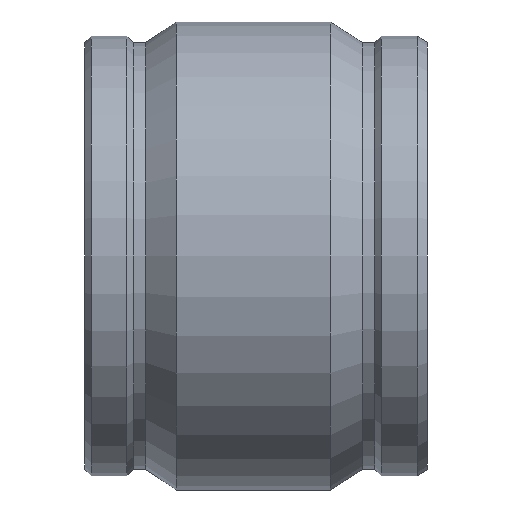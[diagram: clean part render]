
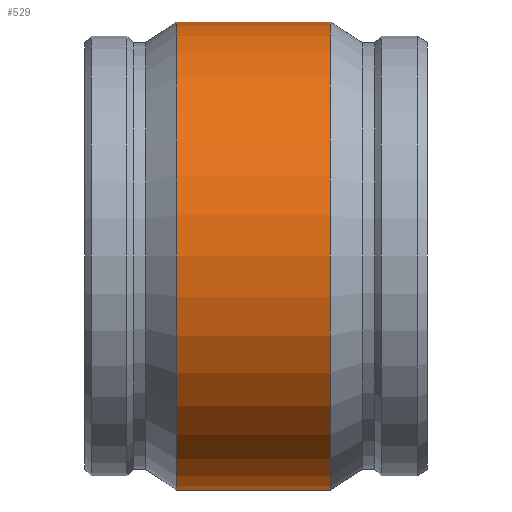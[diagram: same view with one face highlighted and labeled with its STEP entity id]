
A CAD part, front view. The second image highlights one B-rep face of the part: STEP entity #529.
In plain terms, the highlighted cylindrical face has radius 194.31 mm (diameter 388.62 mm), a full revolution.
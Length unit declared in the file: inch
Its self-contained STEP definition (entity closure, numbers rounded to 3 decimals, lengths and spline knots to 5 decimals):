
#50=LINE('',#992,#72);
#72=VECTOR('',#748,7.65);
#89=CYLINDRICAL_SURFACE('',#605,7.65);
#113=FACE_OUTER_BOUND('',#151,.T.);
#151=EDGE_LOOP('',(#421,#422,#423,#424,#425,#426));
#191=CIRCLE('',#603,7.65);
#192=CIRCLE('',#604,7.65);
#193=CIRCLE('',#606,7.65);
#194=CIRCLE('',#607,7.65);
#245=VERTEX_POINT('',#982);
#246=VERTEX_POINT('',#983);
#247=VERTEX_POINT('',#988);
#248=VERTEX_POINT('',#989);
#309=EDGE_CURVE('',#245,#246,#191,.T.);
#310=EDGE_CURVE('',#246,#245,#192,.T.);
#312=EDGE_CURVE('',#247,#248,#193,.T.);
#313=EDGE_CURVE('',#248,#247,#194,.T.);
#314=EDGE_CURVE('',#248,#246,#50,.T.);
#421=ORIENTED_EDGE('',*,*,#312,.F.);
#422=ORIENTED_EDGE('',*,*,#313,.F.);
#423=ORIENTED_EDGE('',*,*,#314,.T.);
#424=ORIENTED_EDGE('',*,*,#310,.T.);
#425=ORIENTED_EDGE('',*,*,#309,.T.);
#426=ORIENTED_EDGE('',*,*,#314,.F.);
#529=ADVANCED_FACE('',(#113),#89,.T.);
#603=AXIS2_PLACEMENT_3D('',#984,#737,#738);
#604=AXIS2_PLACEMENT_3D('',#985,#739,#740);
#605=AXIS2_PLACEMENT_3D('',#987,#742,#743);
#606=AXIS2_PLACEMENT_3D('',#990,#744,#745);
#607=AXIS2_PLACEMENT_3D('',#991,#746,#747);
#737=DIRECTION('center_axis',(1.,0.,0.));
#738=DIRECTION('ref_axis',(0.,0.,-1.));
#739=DIRECTION('center_axis',(1.,0.,0.));
#740=DIRECTION('ref_axis',(0.,0.,-1.));
#742=DIRECTION('center_axis',(1.,0.,0.));
#743=DIRECTION('ref_axis',(0.,1.,0.));
#744=DIRECTION('center_axis',(1.,0.,0.));
#745=DIRECTION('ref_axis',(0.,0.,-1.));
#746=DIRECTION('center_axis',(1.,0.,0.));
#747=DIRECTION('ref_axis',(0.,0.,-1.));
#748=DIRECTION('',(-1.,0.,0.));
#982=CARTESIAN_POINT('',(-2.61,7.65,0.));
#983=CARTESIAN_POINT('',(-2.61,-7.65,0.));
#984=CARTESIAN_POINT('Origin',(-2.61,0.,0.));
#985=CARTESIAN_POINT('Origin',(-2.61,0.,0.));
#987=CARTESIAN_POINT('Origin',(-0.09,0.,0.));
#988=CARTESIAN_POINT('',(2.43,7.65,0.));
#989=CARTESIAN_POINT('',(2.43,-7.65,0.));
#990=CARTESIAN_POINT('Origin',(2.43,0.,0.));
#991=CARTESIAN_POINT('Origin',(2.43,0.,0.));
#992=CARTESIAN_POINT('',(-0.09,-7.65,0.));
